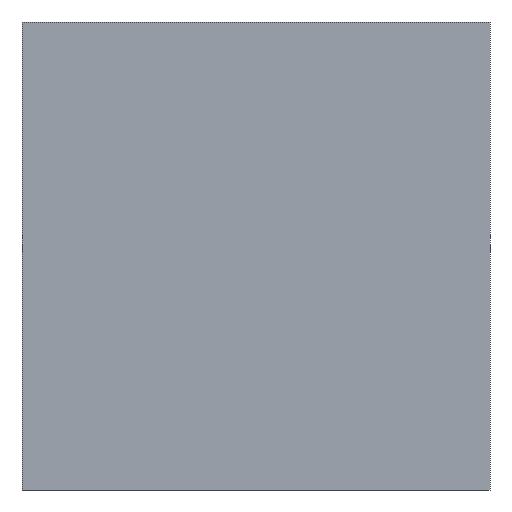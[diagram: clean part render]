
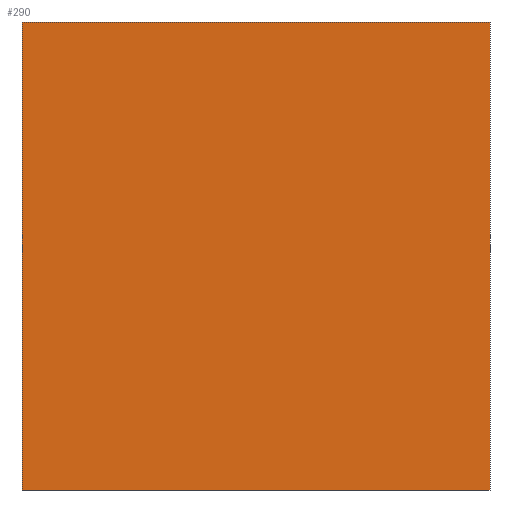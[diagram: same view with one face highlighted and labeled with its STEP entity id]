
A CAD part, left-side view. The second image highlights one B-rep face of the part: STEP entity #290.
In plain terms, the highlighted planar face has unit normal (-1, 0, 0).
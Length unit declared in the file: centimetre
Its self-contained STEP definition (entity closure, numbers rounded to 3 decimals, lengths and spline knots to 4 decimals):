
#12 = ORIENTED_EDGE ( 'NONE', *, *, #43, .F. ) ;
#30 = VERTEX_POINT ( 'NONE', #212 ) ;
#43 = EDGE_CURVE ( 'NONE', #181, #96, #127, .T. ) ;
#58 = VECTOR ( 'NONE', #182, 100. ) ;
#81 = LINE ( 'NONE', #369, #253 ) ;
#90 = CARTESIAN_POINT ( 'NONE',  ( 0., 0., 1000. ) ) ;
#92 = EDGE_CURVE ( 'NONE', #30, #324, #243, .T. ) ;
#96 = VERTEX_POINT ( 'NONE', #130 ) ;
#99 = LINE ( 'NONE', #352, #148 ) ;
#101 = EDGE_CURVE ( 'NONE', #324, #96, #99, .T. ) ;
#122 = VECTOR ( 'NONE', #247, 100. ) ;
#127 = LINE ( 'NONE', #90, #58 ) ;
#130 = CARTESIAN_POINT ( 'NONE',  ( 0., 0., 0. ) ) ;
#134 = EDGE_LOOP ( 'NONE', ( #305, #12, #299, #153 ) ) ;
#143 = CARTESIAN_POINT ( 'NONE',  ( 0., 1000., 1000. ) ) ;
#145 = DIRECTION ( 'NONE',  ( 0., 0., -1. ) ) ;
#148 = VECTOR ( 'NONE', #152, 100. ) ;
#152 = DIRECTION ( 'NONE',  ( 0., -1., 0. ) ) ;
#153 = ORIENTED_EDGE ( 'NONE', *, *, #92, .T. ) ;
#174 = AXIS2_PLACEMENT_3D ( 'NONE', #143, #279, #145 ) ;
#181 = VERTEX_POINT ( 'NONE', #336 ) ;
#182 = DIRECTION ( 'NONE',  ( 0., 0., -1. ) ) ;
#202 = DIRECTION ( 'NONE',  ( 0., -1., 0. ) ) ;
#212 = CARTESIAN_POINT ( 'NONE',  ( 0., 1000., 1000. ) ) ;
#224 = FACE_OUTER_BOUND ( 'NONE', #134, .T. ) ;
#243 = LINE ( 'NONE', #316, #122 ) ;
#247 = DIRECTION ( 'NONE',  ( 0., 0., -1. ) ) ;
#253 = VECTOR ( 'NONE', #202, 100. ) ;
#279 = DIRECTION ( 'NONE',  ( 1., 0., 0. ) ) ;
#290 = ADVANCED_FACE ( 'NONE', ( #224 ), #363, .F. ) ;
#299 = ORIENTED_EDGE ( 'NONE', *, *, #358, .F. ) ;
#305 = ORIENTED_EDGE ( 'NONE', *, *, #101, .T. ) ;
#316 = CARTESIAN_POINT ( 'NONE',  ( 0., 1000., 1000. ) ) ;
#324 = VERTEX_POINT ( 'NONE', #367 ) ;
#336 = CARTESIAN_POINT ( 'NONE',  ( 0., 0., 1000. ) ) ;
#352 = CARTESIAN_POINT ( 'NONE',  ( 0., 1000., 0. ) ) ;
#358 = EDGE_CURVE ( 'NONE', #30, #181, #81, .T. ) ;
#363 = PLANE ( 'NONE',  #174 ) ;
#367 = CARTESIAN_POINT ( 'NONE',  ( 0., 1000., 0. ) ) ;
#369 = CARTESIAN_POINT ( 'NONE',  ( 0., 1000., 1000. ) ) ;
